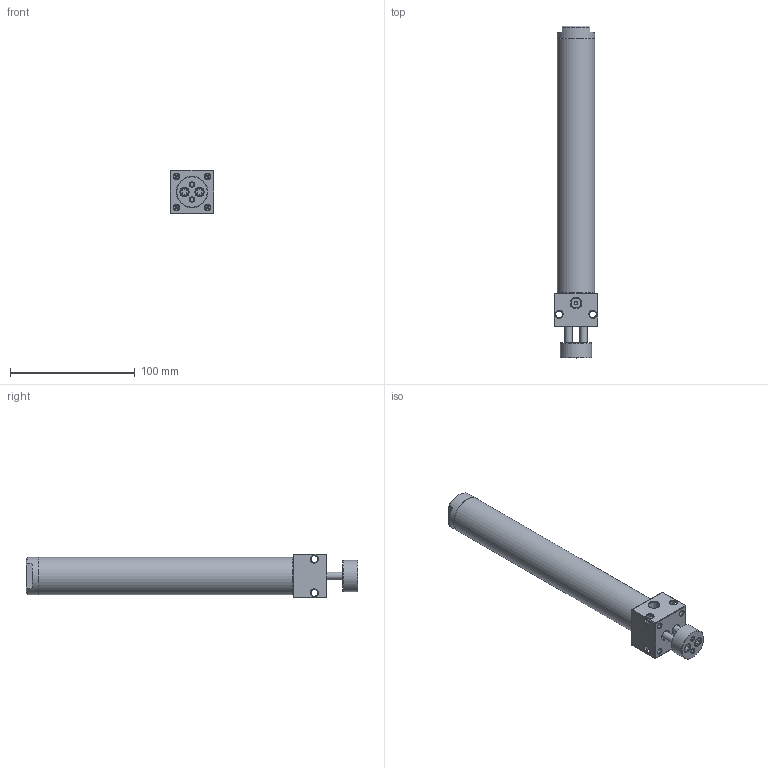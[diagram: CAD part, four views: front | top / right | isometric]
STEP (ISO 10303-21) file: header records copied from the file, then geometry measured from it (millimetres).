
FILE_DESCRIPTION((''),'2;1');
FILE_NAME('I:\3D電子目錄\氣缸\DBT\DBT\DBT25\DBT25x150.stp','2007-10-08T08:57:33',('Administrator'),(''),'Autodesk Inventor 2008','Autodesk Inventor 2008','');
FILE_SCHEMA(('AUTOMOTIVE_DESIGN { 1 0 10303 214 1 1 1 1 }'));
Length unit declared in the file: millimetre
Products named in the file (1): DBT25x150
Bounding box: 35 x 266 x 35 mm (x, y, z)
Volume: 91575.8 mm3; surface area: 55178.9 mm2
Topology: 1 solids, 5 shells, 172 faces, 396 edges, 239 vertices
Faces by surface type: plane 57, bspline 54, cone 38, cylinder 23
Full cylindrical faces by diameter (mm): 3 x1, 3.4 x1, 4 x1, 6 x3, 6.5 x1, 7 x1, 8 x1, 9 x1, 16 x1, 23.8 x2, 25 x2, 25.8 x2, 27 x2, 27.2 x2, 30 x2
Entity records: 5091 total; most frequent: CARTESIAN_POINT 1849, DIRECTION 622, ORIENTED_EDGE 548, EDGE_LOOP 308, EDGE_CURVE 274, AXIS2_PLACEMENT_3D 265, VERTEX_POINT 212, FACE_OUTER_BOUND 172
